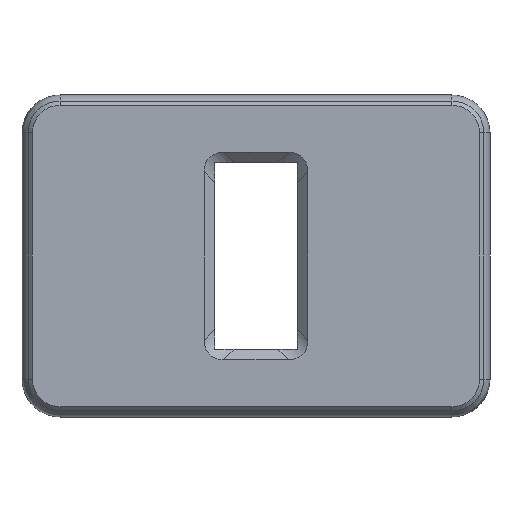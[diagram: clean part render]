
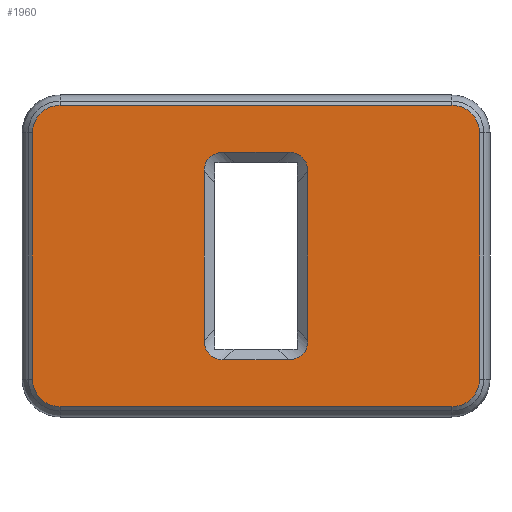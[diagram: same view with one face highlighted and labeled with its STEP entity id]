
A CAD part, front view. The second image highlights one B-rep face of the part: STEP entity #1960.
In plain terms, the highlighted planar face has unit normal (0, -1, 0).
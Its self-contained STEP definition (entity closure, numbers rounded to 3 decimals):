
#31=FACE_BOUND('',#285,.T.);
#34=CIRCLE('',#2110,2.);
#35=CIRCLE('',#2111,2.);
#36=CIRCLE('',#2112,2.);
#37=CIRCLE('',#2113,2.);
#84=PLANE('',#2109);
#171=FACE_OUTER_BOUND('',#284,.T.);
#284=EDGE_LOOP('',(#1396,#1397,#1398,#1399,#1400,#1401,#1402,#1403));
#285=EDGE_LOOP('',(#1404,#1405,#1406,#1407,#1408,#1409,#1410,#1411));
#392=LINE('',#2832,#626);
#398=LINE('',#2856,#632);
#402=LINE('',#2870,#636);
#405=LINE('',#2874,#639);
#411=LINE('',#2888,#645);
#412=LINE('',#2892,#646);
#413=LINE('',#2896,#647);
#414=LINE('',#2900,#648);
#626=VECTOR('',#2266,10.);
#632=VECTOR('',#2290,10.);
#636=VECTOR('',#2304,10.);
#639=VECTOR('',#2309,10.);
#645=VECTOR('',#2321,10.);
#646=VECTOR('',#2324,10.);
#647=VECTOR('',#2327,10.);
#648=VECTOR('',#2330,10.);
#859=ELLIPSE('',#2089,3.464,2.);
#862=ELLIPSE('',#2094,3.464,2.);
#865=ELLIPSE('',#2098,3.464,2.);
#868=ELLIPSE('',#2103,3.464,2.);
#872=VERTEX_POINT('',#2823);
#873=VERTEX_POINT('',#2825);
#875=VERTEX_POINT('',#2831);
#878=VERTEX_POINT('',#2839);
#882=VERTEX_POINT('',#2848);
#883=VERTEX_POINT('',#2850);
#887=VERTEX_POINT('',#2862);
#888=VERTEX_POINT('',#2864);
#893=VERTEX_POINT('',#2886);
#894=VERTEX_POINT('',#2887);
#895=VERTEX_POINT('',#2889);
#896=VERTEX_POINT('',#2891);
#897=VERTEX_POINT('',#2893);
#898=VERTEX_POINT('',#2895);
#899=VERTEX_POINT('',#2897);
#900=VERTEX_POINT('',#2899);
#1060=EDGE_CURVE('',#872,#873,#859,.T.);
#1063=EDGE_CURVE('',#873,#875,#392,.T.);
#1067=EDGE_CURVE('',#875,#878,#862,.T.);
#1072=EDGE_CURVE('',#882,#883,#865,.T.);
#1075=EDGE_CURVE('',#878,#882,#398,.T.);
#1079=EDGE_CURVE('',#887,#888,#868,.T.);
#1082=EDGE_CURVE('',#883,#887,#402,.T.);
#1085=EDGE_CURVE('',#888,#872,#405,.T.);
#1091=EDGE_CURVE('',#893,#894,#411,.T.);
#1092=EDGE_CURVE('',#895,#893,#34,.T.);
#1093=EDGE_CURVE('',#896,#895,#412,.T.);
#1094=EDGE_CURVE('',#897,#896,#35,.T.);
#1095=EDGE_CURVE('',#898,#897,#413,.T.);
#1096=EDGE_CURVE('',#899,#898,#36,.T.);
#1097=EDGE_CURVE('',#900,#899,#414,.T.);
#1098=EDGE_CURVE('',#894,#900,#37,.T.);
#1396=ORIENTED_EDGE('',*,*,#1091,.F.);
#1397=ORIENTED_EDGE('',*,*,#1092,.F.);
#1398=ORIENTED_EDGE('',*,*,#1093,.F.);
#1399=ORIENTED_EDGE('',*,*,#1094,.F.);
#1400=ORIENTED_EDGE('',*,*,#1095,.F.);
#1401=ORIENTED_EDGE('',*,*,#1096,.F.);
#1402=ORIENTED_EDGE('',*,*,#1097,.F.);
#1403=ORIENTED_EDGE('',*,*,#1098,.F.);
#1404=ORIENTED_EDGE('',*,*,#1085,.F.);
#1405=ORIENTED_EDGE('',*,*,#1079,.F.);
#1406=ORIENTED_EDGE('',*,*,#1082,.F.);
#1407=ORIENTED_EDGE('',*,*,#1072,.F.);
#1408=ORIENTED_EDGE('',*,*,#1075,.F.);
#1409=ORIENTED_EDGE('',*,*,#1067,.F.);
#1410=ORIENTED_EDGE('',*,*,#1063,.F.);
#1411=ORIENTED_EDGE('',*,*,#1060,.F.);
#1960=ADVANCED_FACE('',(#171,#31),#84,.F.);
#2089=AXIS2_PLACEMENT_3D('',#2826,#2259,#2260);
#2094=AXIS2_PLACEMENT_3D('',#2840,#2273,#2274);
#2098=AXIS2_PLACEMENT_3D('',#2851,#2283,#2284);
#2103=AXIS2_PLACEMENT_3D('',#2865,#2297,#2298);
#2109=AXIS2_PLACEMENT_3D('',#2885,#2319,#2320);
#2110=AXIS2_PLACEMENT_3D('',#2890,#2322,#2323);
#2111=AXIS2_PLACEMENT_3D('',#2894,#2325,#2326);
#2112=AXIS2_PLACEMENT_3D('',#2898,#2328,#2329);
#2113=AXIS2_PLACEMENT_3D('',#2901,#2331,#2332);
#2259=DIRECTION('center_axis',(0.,-1.,0.));
#2260=DIRECTION('ref_axis',(-0.707,0.,-0.707));
#2266=DIRECTION('',(1.,0.,0.));
#2273=DIRECTION('center_axis',(0.,-1.,0.));
#2274=DIRECTION('ref_axis',(0.707,0.,-0.707));
#2283=DIRECTION('center_axis',(0.,-1.,0.));
#2284=DIRECTION('ref_axis',(0.707,0.,0.707));
#2290=DIRECTION('',(0.,0.,1.));
#2297=DIRECTION('center_axis',(0.,-1.,0.));
#2298=DIRECTION('ref_axis',(-0.707,0.,0.707));
#2304=DIRECTION('',(-1.,0.,0.));
#2309=DIRECTION('',(0.,0.,-1.));
#2319=DIRECTION('center_axis',(0.,1.,0.));
#2320=DIRECTION('ref_axis',(0.,0.,1.));
#2321=DIRECTION('',(-1.,0.,0.));
#2322=DIRECTION('center_axis',(0.,1.,0.));
#2323=DIRECTION('ref_axis',(0.,0.,-1.));
#2324=DIRECTION('',(0.,0.,-1.));
#2325=DIRECTION('center_axis',(0.,1.,0.));
#2326=DIRECTION('ref_axis',(0.,0.,1.));
#2327=DIRECTION('',(1.,0.,0.));
#2328=DIRECTION('center_axis',(0.,1.,0.));
#2329=DIRECTION('ref_axis',(0.,0.,1.));
#2330=DIRECTION('',(0.,0.,1.));
#2331=DIRECTION('center_axis',(0.,1.,0.));
#2332=DIRECTION('ref_axis',(0.,0.,-1.));
#2823=CARTESIAN_POINT('',(-3.75,-1.85,-6.086));
#2825=CARTESIAN_POINT('',(-2.336,-1.85,-7.5));
#2826=CARTESIAN_POINT('Origin',(-0.922,-1.85,-4.672));
#2831=CARTESIAN_POINT('',(2.336,-1.85,-7.5));
#2832=CARTESIAN_POINT('',(2.731,-1.85,-7.5));
#2839=CARTESIAN_POINT('',(3.75,-1.85,-6.086));
#2840=CARTESIAN_POINT('Origin',(0.922,-1.85,-4.672));
#2848=CARTESIAN_POINT('',(3.75,-1.85,6.086));
#2850=CARTESIAN_POINT('',(2.336,-1.85,7.5));
#2851=CARTESIAN_POINT('Origin',(0.922,-1.85,4.672));
#2856=CARTESIAN_POINT('',(3.75,-1.85,-0.462));
#2862=CARTESIAN_POINT('',(-2.336,-1.85,7.5));
#2864=CARTESIAN_POINT('',(-3.75,-1.85,6.086));
#2865=CARTESIAN_POINT('Origin',(-0.922,-1.85,4.672));
#2870=CARTESIAN_POINT('',(5.731,-1.85,7.5));
#2874=CARTESIAN_POINT('',(-3.75,-1.85,6.288));
#2885=CARTESIAN_POINT('Origin',(8.463,-1.85,5.825));
#2886=CARTESIAN_POINT('',(14.175,-1.85,-10.9));
#2887=CARTESIAN_POINT('',(-14.175,-1.85,-10.9));
#2888=CARTESIAN_POINT('',(11.319,-1.85,-10.9));
#2889=CARTESIAN_POINT('',(16.175,-1.85,-8.9));
#2890=CARTESIAN_POINT('Origin',(14.175,-1.85,-8.9));
#2891=CARTESIAN_POINT('',(16.175,-1.85,8.9));
#2892=CARTESIAN_POINT('',(16.175,-1.85,2.913));
#2893=CARTESIAN_POINT('',(14.175,-1.85,10.9));
#2894=CARTESIAN_POINT('Origin',(14.175,-1.85,8.9));
#2895=CARTESIAN_POINT('',(-14.175,-1.85,10.9));
#2896=CARTESIAN_POINT('',(11.319,-1.85,10.9));
#2897=CARTESIAN_POINT('',(-16.175,-1.85,8.9));
#2898=CARTESIAN_POINT('Origin',(-14.175,-1.85,8.9));
#2899=CARTESIAN_POINT('',(-16.175,-1.85,-8.9));
#2900=CARTESIAN_POINT('',(-16.175,-1.85,2.913));
#2901=CARTESIAN_POINT('Origin',(-14.175,-1.85,-8.9));
